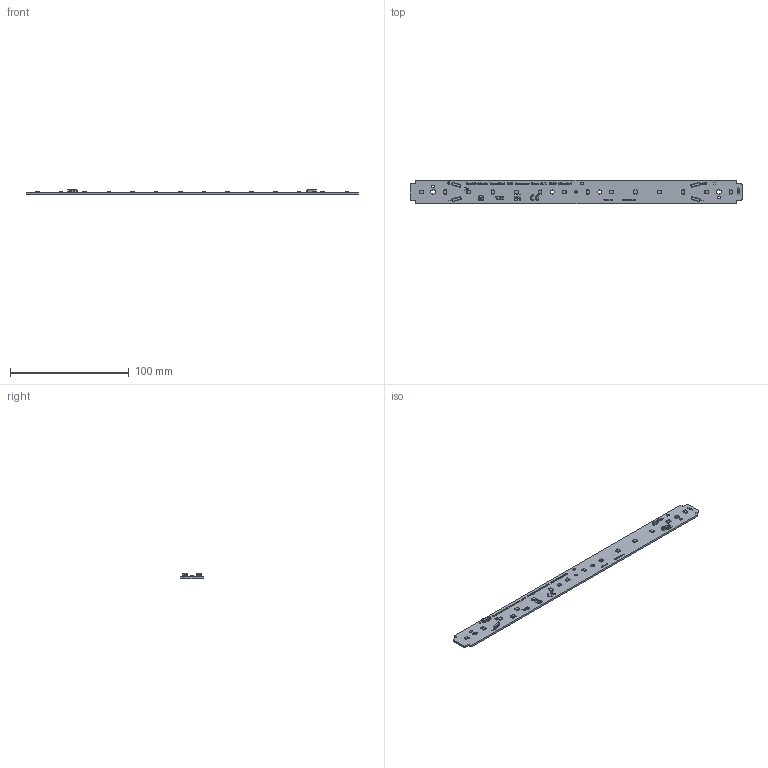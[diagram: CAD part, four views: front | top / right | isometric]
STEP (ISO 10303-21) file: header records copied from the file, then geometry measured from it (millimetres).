
FILE_DESCRIPTION(('Creo Elements/Direct Modeling STEP Export'),'2;1');
FILE_NAME('3D-Model_K-1458-S2_611299-00G3_600667-V3_MLC SC W2_280X S_14_xxx G1_White.stp','2025-11-20T 9:27:52',(''),(''),'PTC Creo Elements/Direct Modeling STEP processor for AP214 (Solid Model)','PTC Creo Elements/Direct Modeling 19.0E 27-Jun-2016 (C) Parametric Technology GmbH','');
FILE_SCHEMA(('AUTOMOTIVE_DESIGN { 1 0 10303 214 1 1 1 1 }'));
Length unit declared in the file: millimetre
Products named in the file (132): p1.3; p1.2; p1.1; p1; MCU_0805.prt; MCU_0805.prt.1; MCU_0805.stp; 2065-101_998-403.prt.2; 2065-101_998-403.prt.1; Konektor_STC_Wago_2065-101_998-403.stp; ______STEP.ASM; _____-0_STEP.PRT.2; _____-0_STEP.PRT.1.3; _____-0_STEP.PRT.5.6; _____-0_STEP.PRT.5.1; 2835PCT_3D_MODEL_STEP.ASM; 2835PCT_3D_MODEL_ORIGIN_CORRECT.ASM; J_SERIES_2835.STEP; BASE; Address.2; Address.6; Address.4; Address.5; Address; Address.3; Address.1; Address.7; Address.49; Address.42; Address.44; Address.31; Address.32; Address.34; Address.8; Address.30; Address.10; Address.25; Address.23; Address.17; Address.69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
Assembly tree (138 placements, depth 4):
  p1.3
    p1.3
  p1.2
  p1.1
    p1.1
  p1
    p1
  MCU_0805.stp
    MCU_0805.prt.1
    MCU_0805.prt
Bounding box: 279 x 20 x 4.3 mm (x, y, z)
Volume: 8815 mm3; surface area: 13370.5 mm2
Topology: 118 solids, 203 shells, 5497 faces, 14956 edges, 9794 vertices
Faces by surface type: plane 4174, cylinder 1323
Entity records: 131942 total; most frequent: CARTESIAN_POINT 18487, ORIENTED_EDGE 18176, DIRECTION 17584, EDGE_CURVE 9072, VECTOR 7262, LINE 7262, VERTEX_POINT 6006, AXIS2_PLACEMENT_3D 5161
